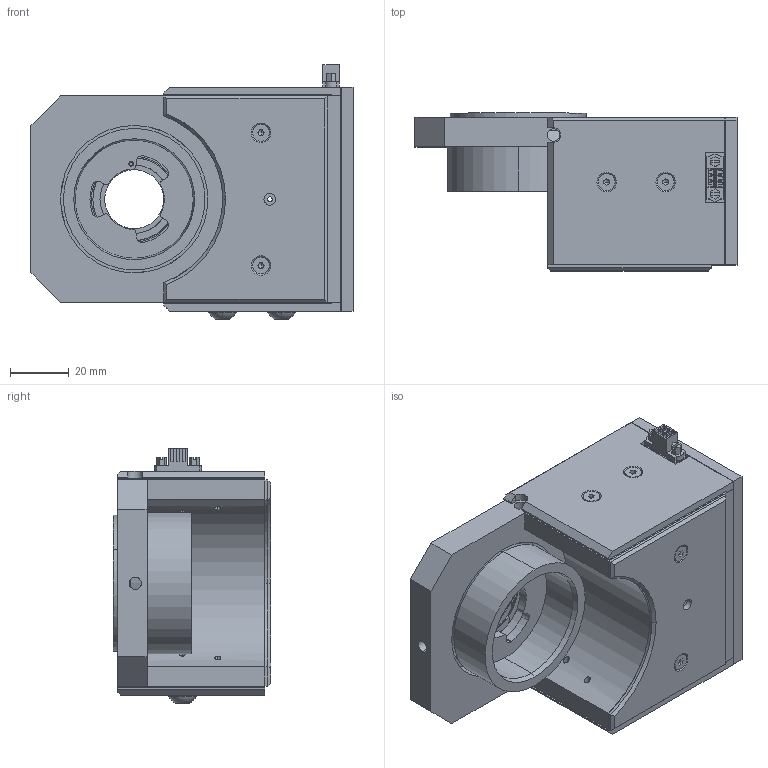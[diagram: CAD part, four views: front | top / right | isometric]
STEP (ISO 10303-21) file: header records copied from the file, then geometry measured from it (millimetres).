
FILE_DESCRIPTION (( 'STEP AP214' ), '1' );
FILE_NAME ('NSPM.30.20.000.01 - Z-ñêàíåð îáúåêòèâà.STEP', '2014-03-28T11:28:09', ( '' ), ( '' ), 'SwSTEP 2.0', 'SolidWorks 2013', '' );
FILE_SCHEMA (( 'AUTOMOTIVE_DESIGN' ));
Length unit declared in the file: millimetre
Products named in the file (1): NSPM.30.20.000.01 - Z-ñêàíåð îáúåêòèâà
Bounding box: 109.2 x 53.5 x 86.38 mm (x, y, z)
Surface area: 70953.9 mm2 (no closed solid volume)
Topology: 0 solids, 35 shells, 600 faces, 2110 edges, 1512 vertices
Faces by surface type: plane 368, cylinder 148, cone 80, sphere 4
Entity records: 30201 total; most frequent: CARTESIAN_POINT 6012, DIRECTION 3492, ORIENTED_EDGE 3300, EDGE_CURVE 2094, VERTEX_POINT 1512, VECTOR 1376, LINE 1376, AXIS2_PLACEMENT_3D 1058
